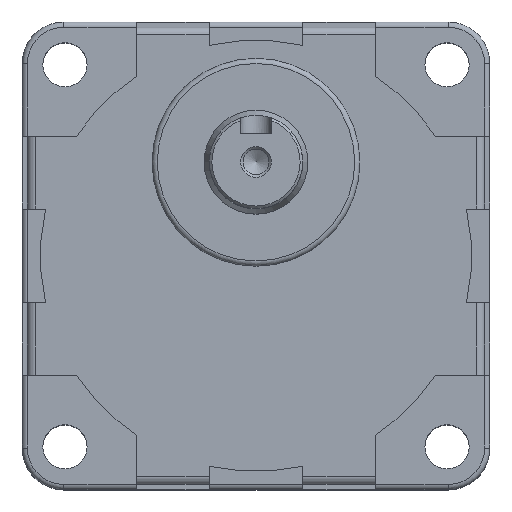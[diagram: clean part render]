
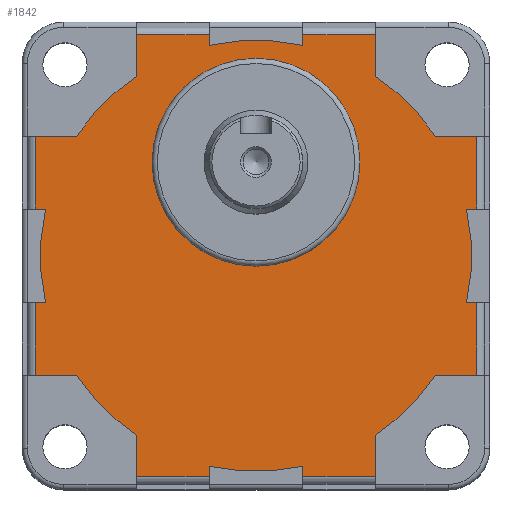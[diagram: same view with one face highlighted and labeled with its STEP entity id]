
A CAD part, top view. The second image highlights one B-rep face of the part: STEP entity #1842.
In plain terms, the highlighted planar face has unit normal (0, 0, 1).
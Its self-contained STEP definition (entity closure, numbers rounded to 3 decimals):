
#45=FACE_BOUND('',#341,.T.);
#79=CIRCLE('',#1971,20.);
#84=CIRCLE('',#1981,41.5);
#85=CIRCLE('',#1982,41.5);
#86=CIRCLE('',#1983,41.5);
#87=CIRCLE('',#1984,41.5);
#88=CIRCLE('',#1985,41.5);
#89=CIRCLE('',#1986,41.5);
#90=CIRCLE('',#1987,41.5);
#91=CIRCLE('',#1988,41.5);
#215=FACE_OUTER_BOUND('',#340,.T.);
#340=EDGE_LOOP('',(#1313,#1314,#1315,#1316,#1317,#1318,#1319,#1320,#1321,
#1322,#1323,#1324,#1325,#1326,#1327,#1328,#1329,#1330,#1331,#1332,#1333,
#1334,#1335,#1336,#1337,#1338,#1339,#1340,#1341,#1342,#1343,#1344));
#341=EDGE_LOOP('',(#1345));
#444=LINE('',#2827,#616);
#448=LINE('',#2839,#620);
#450=LINE('',#2845,#622);
#451=LINE('',#2849,#623);
#452=LINE('',#2851,#624);
#453=LINE('',#2853,#625);
#454=LINE('',#2857,#626);
#455=LINE('',#2859,#627);
#456=LINE('',#2861,#628);
#457=LINE('',#2865,#629);
#458=LINE('',#2867,#630);
#459=LINE('',#2869,#631);
#460=LINE('',#2873,#632);
#461=LINE('',#2875,#633);
#462=LINE('',#2877,#634);
#463=LINE('',#2881,#635);
#464=LINE('',#2883,#636);
#465=LINE('',#2885,#637);
#466=LINE('',#2889,#638);
#467=LINE('',#2891,#639);
#468=LINE('',#2893,#640);
#469=LINE('',#2896,#641);
#470=LINE('',#2898,#642);
#471=LINE('',#2901,#643);
#616=VECTOR('',#2241,14.);
#620=VECTOR('',#2251,14.);
#622=VECTOR('',#2257,7.957);
#623=VECTOR('',#2260,7.957);
#624=VECTOR('',#2261,14.);
#625=VECTOR('',#2262,1.988);
#626=VECTOR('',#2265,1.988);
#627=VECTOR('',#2266,14.);
#628=VECTOR('',#2267,7.957);
#629=VECTOR('',#2270,7.957);
#630=VECTOR('',#2271,14.);
#631=VECTOR('',#2272,1.988);
#632=VECTOR('',#2275,1.988);
#633=VECTOR('',#2276,14.);
#634=VECTOR('',#2277,7.957);
#635=VECTOR('',#2280,7.957);
#636=VECTOR('',#2281,14.);
#637=VECTOR('',#2282,1.988);
#638=VECTOR('',#2285,1.988);
#639=VECTOR('',#2286,14.);
#640=VECTOR('',#2287,7.957);
#641=VECTOR('',#2290,7.957);
#642=VECTOR('',#2291,1.988);
#643=VECTOR('',#2294,1.988);
#813=VERTEX_POINT('',#2816);
#814=VERTEX_POINT('',#2820);
#817=VERTEX_POINT('',#2825);
#821=VERTEX_POINT('',#2836);
#822=VERTEX_POINT('',#2838);
#824=VERTEX_POINT('',#2844);
#825=VERTEX_POINT('',#2846);
#826=VERTEX_POINT('',#2848);
#827=VERTEX_POINT('',#2850);
#828=VERTEX_POINT('',#2852);
#829=VERTEX_POINT('',#2854);
#830=VERTEX_POINT('',#2856);
#831=VERTEX_POINT('',#2858);
#832=VERTEX_POINT('',#2860);
#833=VERTEX_POINT('',#2862);
#834=VERTEX_POINT('',#2864);
#835=VERTEX_POINT('',#2866);
#836=VERTEX_POINT('',#2868);
#837=VERTEX_POINT('',#2870);
#838=VERTEX_POINT('',#2872);
#839=VERTEX_POINT('',#2874);
#840=VERTEX_POINT('',#2876);
#841=VERTEX_POINT('',#2878);
#842=VERTEX_POINT('',#2880);
#843=VERTEX_POINT('',#2882);
#844=VERTEX_POINT('',#2884);
#845=VERTEX_POINT('',#2886);
#846=VERTEX_POINT('',#2888);
#847=VERTEX_POINT('',#2890);
#848=VERTEX_POINT('',#2892);
#849=VERTEX_POINT('',#2894);
#850=VERTEX_POINT('',#2897);
#851=VERTEX_POINT('',#2899);
#1002=EDGE_CURVE('',#813,#813,#79,.T.);
#1006=EDGE_CURVE('',#817,#814,#444,.T.);
#1011=EDGE_CURVE('',#821,#822,#448,.T.);
#1014=EDGE_CURVE('',#817,#824,#450,.T.);
#1015=EDGE_CURVE('',#825,#824,#84,.T.);
#1016=EDGE_CURVE('',#826,#825,#451,.T.);
#1017=EDGE_CURVE('',#827,#826,#452,.T.);
#1018=EDGE_CURVE('',#828,#827,#453,.T.);
#1019=EDGE_CURVE('',#829,#828,#85,.T.);
#1020=EDGE_CURVE('',#829,#830,#454,.T.);
#1021=EDGE_CURVE('',#831,#830,#455,.T.);
#1022=EDGE_CURVE('',#831,#832,#456,.T.);
#1023=EDGE_CURVE('',#833,#832,#86,.T.);
#1024=EDGE_CURVE('',#834,#833,#457,.T.);
#1025=EDGE_CURVE('',#835,#834,#458,.T.);
#1026=EDGE_CURVE('',#836,#835,#459,.T.);
#1027=EDGE_CURVE('',#837,#836,#87,.T.);
#1028=EDGE_CURVE('',#837,#838,#460,.T.);
#1029=EDGE_CURVE('',#839,#838,#461,.T.);
#1030=EDGE_CURVE('',#839,#840,#462,.T.);
#1031=EDGE_CURVE('',#841,#840,#88,.T.);
#1032=EDGE_CURVE('',#842,#841,#463,.T.);
#1033=EDGE_CURVE('',#843,#842,#464,.T.);
#1034=EDGE_CURVE('',#844,#843,#465,.T.);
#1035=EDGE_CURVE('',#845,#844,#89,.T.);
#1036=EDGE_CURVE('',#845,#846,#466,.T.);
#1037=EDGE_CURVE('',#847,#846,#467,.T.);
#1038=EDGE_CURVE('',#847,#848,#468,.T.);
#1039=EDGE_CURVE('',#849,#848,#90,.T.);
#1040=EDGE_CURVE('',#822,#849,#469,.T.);
#1041=EDGE_CURVE('',#850,#821,#470,.T.);
#1042=EDGE_CURVE('',#851,#850,#91,.T.);
#1043=EDGE_CURVE('',#851,#814,#471,.T.);
#1313=ORIENTED_EDGE('',*,*,#1006,.F.);
#1314=ORIENTED_EDGE('',*,*,#1014,.T.);
#1315=ORIENTED_EDGE('',*,*,#1015,.F.);
#1316=ORIENTED_EDGE('',*,*,#1016,.F.);
#1317=ORIENTED_EDGE('',*,*,#1017,.F.);
#1318=ORIENTED_EDGE('',*,*,#1018,.F.);
#1319=ORIENTED_EDGE('',*,*,#1019,.F.);
#1320=ORIENTED_EDGE('',*,*,#1020,.T.);
#1321=ORIENTED_EDGE('',*,*,#1021,.F.);
#1322=ORIENTED_EDGE('',*,*,#1022,.T.);
#1323=ORIENTED_EDGE('',*,*,#1023,.F.);
#1324=ORIENTED_EDGE('',*,*,#1024,.F.);
#1325=ORIENTED_EDGE('',*,*,#1025,.F.);
#1326=ORIENTED_EDGE('',*,*,#1026,.F.);
#1327=ORIENTED_EDGE('',*,*,#1027,.F.);
#1328=ORIENTED_EDGE('',*,*,#1028,.T.);
#1329=ORIENTED_EDGE('',*,*,#1029,.F.);
#1330=ORIENTED_EDGE('',*,*,#1030,.T.);
#1331=ORIENTED_EDGE('',*,*,#1031,.F.);
#1332=ORIENTED_EDGE('',*,*,#1032,.F.);
#1333=ORIENTED_EDGE('',*,*,#1033,.F.);
#1334=ORIENTED_EDGE('',*,*,#1034,.F.);
#1335=ORIENTED_EDGE('',*,*,#1035,.F.);
#1336=ORIENTED_EDGE('',*,*,#1036,.T.);
#1337=ORIENTED_EDGE('',*,*,#1037,.F.);
#1338=ORIENTED_EDGE('',*,*,#1038,.T.);
#1339=ORIENTED_EDGE('',*,*,#1039,.F.);
#1340=ORIENTED_EDGE('',*,*,#1040,.F.);
#1341=ORIENTED_EDGE('',*,*,#1011,.F.);
#1342=ORIENTED_EDGE('',*,*,#1041,.F.);
#1343=ORIENTED_EDGE('',*,*,#1042,.F.);
#1344=ORIENTED_EDGE('',*,*,#1043,.T.);
#1345=ORIENTED_EDGE('',*,*,#1002,.F.);
#1773=PLANE('',#1980);
#1842=ADVANCED_FACE('',(#215,#45),#1773,.T.);
#1971=AXIS2_PLACEMENT_3D('',#2817,#2230,#2231);
#1980=AXIS2_PLACEMENT_3D('',#2843,#2255,#2256);
#1981=AXIS2_PLACEMENT_3D('',#2847,#2258,#2259);
#1982=AXIS2_PLACEMENT_3D('',#2855,#2263,#2264);
#1983=AXIS2_PLACEMENT_3D('',#2863,#2268,#2269);
#1984=AXIS2_PLACEMENT_3D('',#2871,#2273,#2274);
#1985=AXIS2_PLACEMENT_3D('',#2879,#2278,#2279);
#1986=AXIS2_PLACEMENT_3D('',#2887,#2283,#2284);
#1987=AXIS2_PLACEMENT_3D('',#2895,#2288,#2289);
#1988=AXIS2_PLACEMENT_3D('',#2900,#2292,#2293);
#2230=DIRECTION('center_axis',(0.,0.,1.));
#2231=DIRECTION('ref_axis',(-1.,0.,0.));
#2241=DIRECTION('',(0.,-1.,0.));
#2251=DIRECTION('',(0.,-1.,0.));
#2255=DIRECTION('center_axis',(0.,0.,1.));
#2256=DIRECTION('ref_axis',(1.,0.,0.));
#2257=DIRECTION('',(-1.,0.,0.));
#2258=DIRECTION('center_axis',(0.,0.,-1.));
#2259=DIRECTION('ref_axis',(-1.,0.,0.));
#2260=DIRECTION('',(0.,-1.,0.));
#2261=DIRECTION('',(1.,0.,0.));
#2262=DIRECTION('',(0.,1.,0.));
#2263=DIRECTION('center_axis',(0.,0.,-1.));
#2264=DIRECTION('ref_axis',(-1.,0.,0.));
#2265=DIRECTION('',(0.,1.,0.));
#2266=DIRECTION('',(1.,0.,0.));
#2267=DIRECTION('',(0.,-1.,0.));
#2268=DIRECTION('center_axis',(0.,0.,-1.));
#2269=DIRECTION('ref_axis',(-1.,0.,0.));
#2270=DIRECTION('',(1.,0.,0.));
#2271=DIRECTION('',(0.,1.,0.));
#2272=DIRECTION('',(-1.,0.,0.));
#2273=DIRECTION('center_axis',(0.,0.,-1.));
#2274=DIRECTION('ref_axis',(-1.,0.,0.));
#2275=DIRECTION('',(-1.,0.,0.));
#2276=DIRECTION('',(0.,1.,0.));
#2277=DIRECTION('',(1.,0.,0.));
#2278=DIRECTION('center_axis',(0.,0.,-1.));
#2279=DIRECTION('ref_axis',(-1.,0.,0.));
#2280=DIRECTION('',(0.,1.,0.));
#2281=DIRECTION('',(-1.,0.,0.));
#2282=DIRECTION('',(0.,-1.,0.));
#2283=DIRECTION('center_axis',(0.,0.,-1.));
#2284=DIRECTION('ref_axis',(-1.,0.,0.));
#2285=DIRECTION('',(0.,-1.,0.));
#2286=DIRECTION('',(-1.,0.,0.));
#2287=DIRECTION('',(0.,1.,0.));
#2288=DIRECTION('center_axis',(0.,0.,-1.));
#2289=DIRECTION('ref_axis',(-1.,0.,0.));
#2290=DIRECTION('',(-1.,0.,0.));
#2291=DIRECTION('',(1.,0.,0.));
#2292=DIRECTION('center_axis',(0.,0.,-1.));
#2293=DIRECTION('ref_axis',(-1.,0.,0.));
#2294=DIRECTION('',(1.,0.,0.));
#2816=CARTESIAN_POINT('',(20.,18.,44.2));
#2817=CARTESIAN_POINT('Origin',(0.,18.,44.2));
#2820=CARTESIAN_POINT('',(42.5,9.,44.2));
#2825=CARTESIAN_POINT('',(42.5,23.,44.2));
#2827=CARTESIAN_POINT('',(42.5,11.5,44.2));
#2836=CARTESIAN_POINT('',(42.5,-9.,44.2));
#2838=CARTESIAN_POINT('',(42.5,-23.,44.2));
#2839=CARTESIAN_POINT('',(42.5,-11.5,44.2));
#2843=CARTESIAN_POINT('Origin',(0.,0.,
44.2));
#2844=CARTESIAN_POINT('',(34.543,23.,44.2));
#2845=CARTESIAN_POINT('',(34.543,23.,44.2));
#2846=CARTESIAN_POINT('',(23.,34.543,44.2));
#2847=CARTESIAN_POINT('Origin',(0.,0.,44.2));
#2848=CARTESIAN_POINT('',(23.,42.5,44.2));
#2849=CARTESIAN_POINT('',(23.,34.543,44.2));
#2850=CARTESIAN_POINT('',(9.,42.5,44.2));
#2851=CARTESIAN_POINT('',(11.5,42.5,44.2));
#2852=CARTESIAN_POINT('',(9.,40.512,44.2));
#2853=CARTESIAN_POINT('',(9.,45.,44.2));
#2854=CARTESIAN_POINT('',(-9.,40.512,44.2));
#2855=CARTESIAN_POINT('Origin',(0.,0.,44.2));
#2856=CARTESIAN_POINT('',(-9.,42.5,44.2));
#2857=CARTESIAN_POINT('',(-9.,45.,44.2));
#2858=CARTESIAN_POINT('',(-23.,42.5,44.2));
#2859=CARTESIAN_POINT('',(-11.5,42.5,44.2));
#2860=CARTESIAN_POINT('',(-23.,34.543,44.2));
#2861=CARTESIAN_POINT('',(-23.,34.543,44.2));
#2862=CARTESIAN_POINT('',(-34.543,23.,44.2));
#2863=CARTESIAN_POINT('Origin',(0.,0.,44.2));
#2864=CARTESIAN_POINT('',(-42.5,23.,44.2));
#2865=CARTESIAN_POINT('',(-34.543,23.,44.2));
#2866=CARTESIAN_POINT('',(-42.5,9.,44.2));
#2867=CARTESIAN_POINT('',(-42.5,11.5,44.2));
#2868=CARTESIAN_POINT('',(-40.512,9.,44.2));
#2869=CARTESIAN_POINT('',(-45.,9.,44.2));
#2870=CARTESIAN_POINT('',(-40.512,-9.,44.2));
#2871=CARTESIAN_POINT('Origin',(0.,0.,44.2));
#2872=CARTESIAN_POINT('',(-42.5,-9.,44.2));
#2873=CARTESIAN_POINT('',(-45.,-9.,44.2));
#2874=CARTESIAN_POINT('',(-42.5,-23.,44.2));
#2875=CARTESIAN_POINT('',(-42.5,-11.5,44.2));
#2876=CARTESIAN_POINT('',(-34.543,-23.,44.2));
#2877=CARTESIAN_POINT('',(-34.543,-23.,44.2));
#2878=CARTESIAN_POINT('',(-23.,-34.543,44.2));
#2879=CARTESIAN_POINT('Origin',(0.,0.,44.2));
#2880=CARTESIAN_POINT('',(-23.,-42.5,44.2));
#2881=CARTESIAN_POINT('',(-23.,-34.543,44.2));
#2882=CARTESIAN_POINT('',(-9.,-42.5,44.2));
#2883=CARTESIAN_POINT('',(-11.5,-42.5,44.2));
#2884=CARTESIAN_POINT('',(-9.,-40.512,44.2));
#2885=CARTESIAN_POINT('',(-9.,-45.,44.2));
#2886=CARTESIAN_POINT('',(9.,-40.512,44.2));
#2887=CARTESIAN_POINT('Origin',(0.,0.,44.2));
#2888=CARTESIAN_POINT('',(9.,-42.5,44.2));
#2889=CARTESIAN_POINT('',(9.,-45.,44.2));
#2890=CARTESIAN_POINT('',(23.,-42.5,44.2));
#2891=CARTESIAN_POINT('',(11.5,-42.5,44.2));
#2892=CARTESIAN_POINT('',(23.,-34.543,44.2));
#2893=CARTESIAN_POINT('',(23.,-34.543,44.2));
#2894=CARTESIAN_POINT('',(34.543,-23.,44.2));
#2895=CARTESIAN_POINT('Origin',(0.,0.,44.2));
#2896=CARTESIAN_POINT('',(34.543,-23.,44.2));
#2897=CARTESIAN_POINT('',(40.512,-9.,44.2));
#2898=CARTESIAN_POINT('',(45.,-9.,44.2));
#2899=CARTESIAN_POINT('',(40.512,9.,44.2));
#2900=CARTESIAN_POINT('Origin',(0.,0.,44.2));
#2901=CARTESIAN_POINT('',(45.,9.,44.2));
